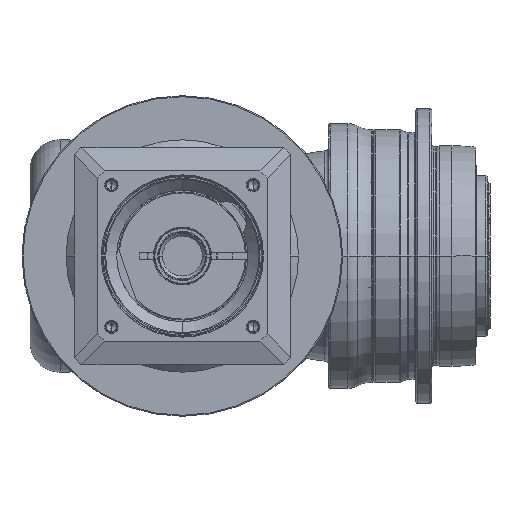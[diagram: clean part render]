
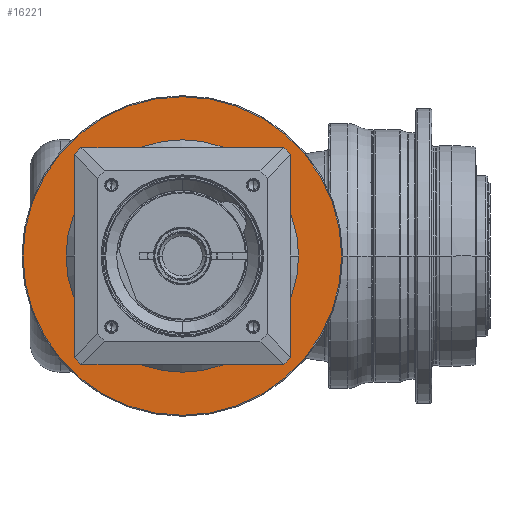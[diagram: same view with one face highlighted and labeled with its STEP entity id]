
A CAD part, front view. The second image highlights one B-rep face of the part: STEP entity #16221.
In plain terms, the highlighted planar face has unit normal (0, -1, 0) as drawn and (1, 0, 0) by its records, which use the part's own axes.
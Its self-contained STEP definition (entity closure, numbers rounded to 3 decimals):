
#15748=CARTESIAN_POINT('',(-4.,0.,
0.));
#15749=DIRECTION('',(-1.,0.,0.));
#15750=DIRECTION('',(0.,1.,0.));
#15751=AXIS2_PLACEMENT_3D('',#15748,#15749,#15750);
#15753=CARTESIAN_POINT('',(-4.,0.,
0.));
#15754=DIRECTION('',(-1.,0.,0.));
#15755=DIRECTION('',(0.,-1.,0.));
#15756=AXIS2_PLACEMENT_3D('',#15753,#15754,#15755);
#15758=CARTESIAN_POINT('',(-4.,0.,0.));
#15759=DIRECTION('',(-1.,0.,0.));
#15760=DIRECTION('',(0.,-1.,0.));
#15761=AXIS2_PLACEMENT_3D('',#15758,#15759,#15760);
#15763=CARTESIAN_POINT('',(-4.,0.,0.));
#15764=DIRECTION('',(-1.,0.,0.));
#15765=DIRECTION('',(0.,1.,0.));
#15766=AXIS2_PLACEMENT_3D('',#15763,#15764,#15765);
#15792=CARTESIAN_POINT('',(-4.,-79.5,0.));
#15793=CARTESIAN_POINT('',(-4.,79.5,0.));
#15794=VERTEX_POINT('',#15792);
#15795=VERTEX_POINT('',#15793);
#15840=CARTESIAN_POINT('',(-4.,58.,0.));
#15841=CARTESIAN_POINT('',(-4.,-58.,
0.));
#15842=VERTEX_POINT('',#15840);
#15843=VERTEX_POINT('',#15841);
#16206=CARTESIAN_POINT('',(-4.,0.,0.));
#16207=DIRECTION('',(1.,0.,0.));
#16208=DIRECTION('',(0.,-1.,0.));
#16209=AXIS2_PLACEMENT_3D('',#16206,#16207,#16208);
#16210=PLANE('',#16209);
#16211=ORIENTED_EDGE('',*,*,#16147,.T.);
#16212=ORIENTED_EDGE('',*,*,#16162,.T.);
#16213=EDGE_LOOP('',(#16211,#16212));
#16214=FACE_OUTER_BOUND('',#16213,.F.);
#16216=ORIENTED_EDGE('',*,*,#16215,.F.);
#16218=ORIENTED_EDGE('',*,*,#16217,.F.);
#16219=EDGE_LOOP('',(#16216,#16218));
#16220=FACE_BOUND('',#16219,.F.);
#16221=ADVANCED_FACE('',(#16214,#16220),#16210,.T.);
#15752=CIRCLE('',#15751,58.);
#15757=CIRCLE('',#15756,58.);
#15762=CIRCLE('',#15761,79.5);
#15767=CIRCLE('',#15766,79.5);
#16147=EDGE_CURVE('',#15794,#15795,#15762,.T.);
#16162=EDGE_CURVE('',#15795,#15794,#15767,.T.);
#16215=EDGE_CURVE('',#15842,#15843,#15752,.T.);
#16217=EDGE_CURVE('',#15843,#15842,#15757,.T.);
